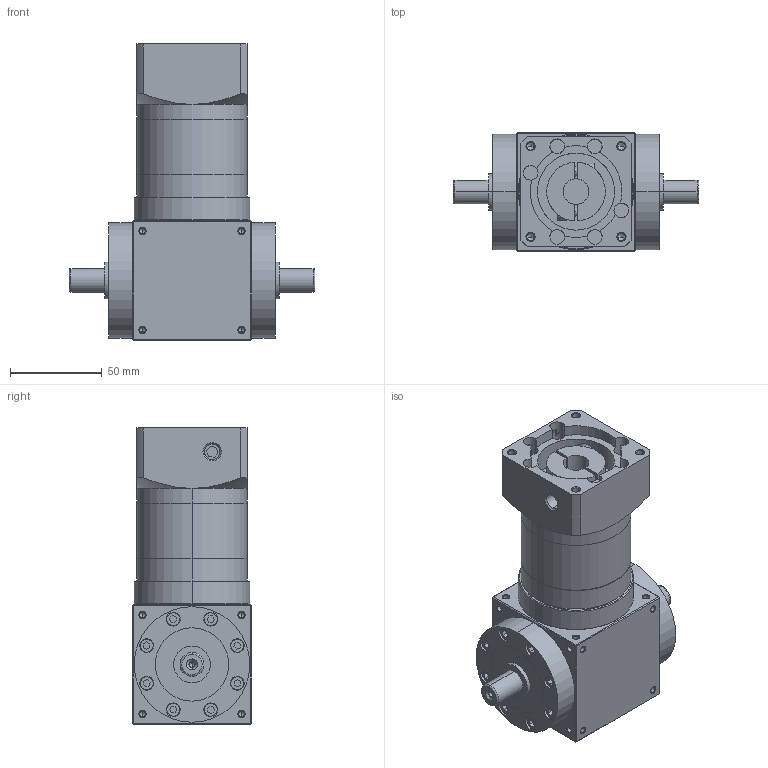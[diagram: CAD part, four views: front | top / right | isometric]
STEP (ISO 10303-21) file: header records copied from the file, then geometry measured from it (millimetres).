
FILE_DESCRIPTION (( 'STEP AP203' ), '1' );
FILE_NAME ('AT065-FL-L3-14-50-70M5.STEP', '2026-04-20T06:27:52', ( 'Windows User' ), ( 'P R C' ), 'SwSTEP 2.0', 'SolidWorks 2016', '' );
FILE_SCHEMA (( 'CONFIG_CONTROL_DESIGN' ));
Length unit declared in the file: millimetre
Products named in the file (5): AT65FL-转角箱体-批量-双轴输出; AT65-怀堤楊擘-蠶講; AT065-输入法兰-B-(14-30-50-M5-70); AT065-双级齿圈; AT065-FL-L3-14-50-70M5
Assembly tree (4 placements, depth 2):
  AT065-FL-L3-14-50-70M5
    AT65FL-转角箱体-批量-双轴输出
    AT65-怀堤楊擘-蠶講
    AT065-输入法兰-B-(14-30-50-M5-70)
    AT065-双级齿圈
Bounding box: 134 x 65 x 161.5 mm (x, y, z)
Volume: 472250.8 mm3; surface area: 118776.7 mm2
Topology: 6 solids, 18 shells, 1649 faces, 4224 edges, 2655 vertices
Faces by surface type: plane 786, cylinder 414, cone 291, bspline 158
Entity records: 56358 total; most frequent: CARTESIAN_POINT 17222, ORIENTED_EDGE 8224, DIRECTION 7546, EDGE_CURVE 4112, VERTEX_POINT 2655, VECTOR 2536, LINE 2536, AXIS2_PLACEMENT_3D 2505
